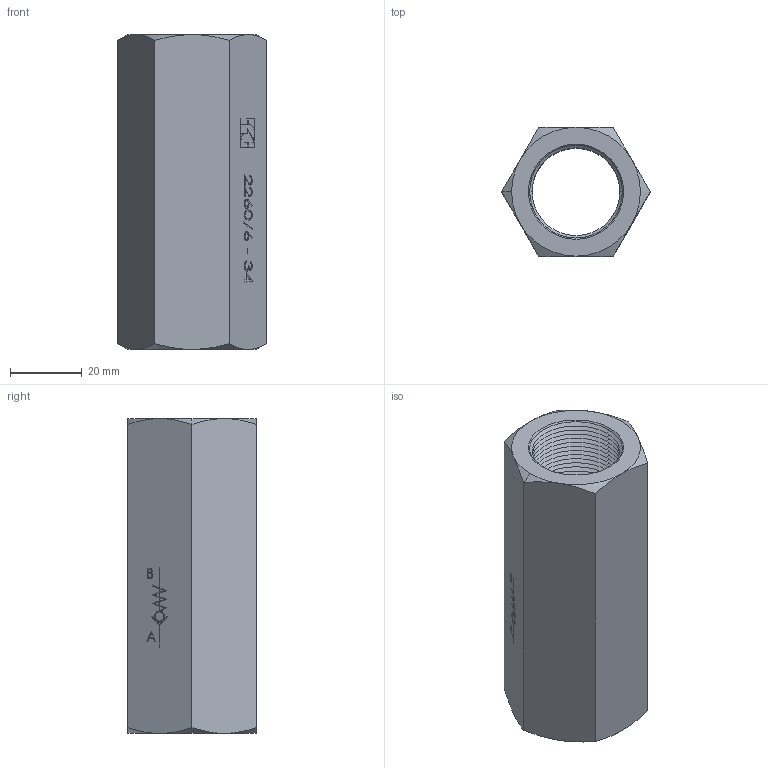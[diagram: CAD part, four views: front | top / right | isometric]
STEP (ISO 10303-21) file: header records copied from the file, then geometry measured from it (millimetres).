
FILE_DESCRIPTION (( 'STEP AP214' ), '1' );
FILE_NAME ('2260-6-34.STEP', '2015-04-08T19:11:42', ( '' ), ( '' ), 'SwSTEP 2.0', 'SolidWorks 2014', '' );
FILE_SCHEMA (( 'AUTOMOTIVE_DESIGN' ));
Length unit declared in the file: millimetre
Products named in the file (1): 2260-6-34
Bounding box: 41.57 x 36 x 88 mm (x, y, z)
Surface area: 15765.2 mm2 (no closed solid volume)
Topology: 0 solids, 14 shells, 304 faces, 864 edges, 556 vertices
Faces by surface type: plane 145, cone 96, bspline 53, cylinder 10
Entity records: 16530 total; most frequent: CARTESIAN_POINT 5718, ORIENTED_EDGE 1526, DIRECTION 1372, EDGE_CURVE 864, LINE 564, VECTOR 564, VERTEX_POINT 556, AXIS2_PLACEMENT_3D 404
